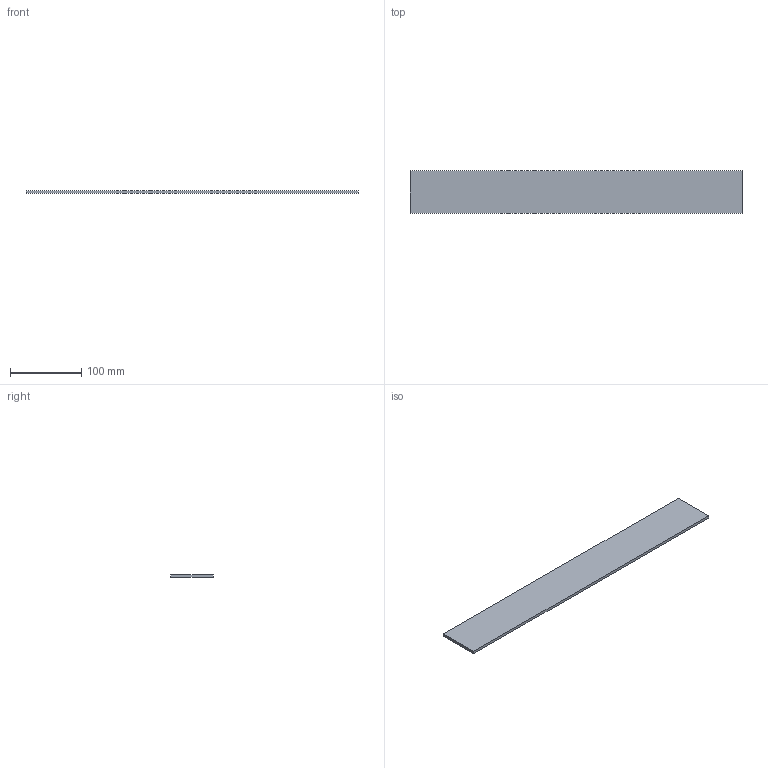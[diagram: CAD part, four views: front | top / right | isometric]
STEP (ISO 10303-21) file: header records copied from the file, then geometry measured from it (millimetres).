
FILE_DESCRIPTION (( 'STEP AP214' ), '1' );
FILE_NAME ('_Variowing Glasdekor NL500.step', '2010-07-14T13:33:37', ( 'grass' ), ( '' ), 'SwSTEP 2.0', 'SolidWorks 2010', '' );
FILE_SCHEMA (( 'AUTOMOTIVE_DESIGN' ));
Length unit declared in the file: millimetre
Products named in the file (1): _Variowing Glasdekor NL500
Bounding box: 465 x 60 x 4 mm (x, y, z)
Volume: 111600 mm3; surface area: 60000 mm2
Topology: 1 solids, 1 shells, 6 faces, 12 edges, 8 vertices
Faces by surface type: plane 6
Entity records: 190 total; most frequent: CARTESIAN_POINT 27, DIRECTION 26, ORIENTED_EDGE 24, VECTOR 12, LINE 12, EDGE_CURVE 12, VERTEX_POINT 8, AXIS2_PLACEMENT_3D 7
